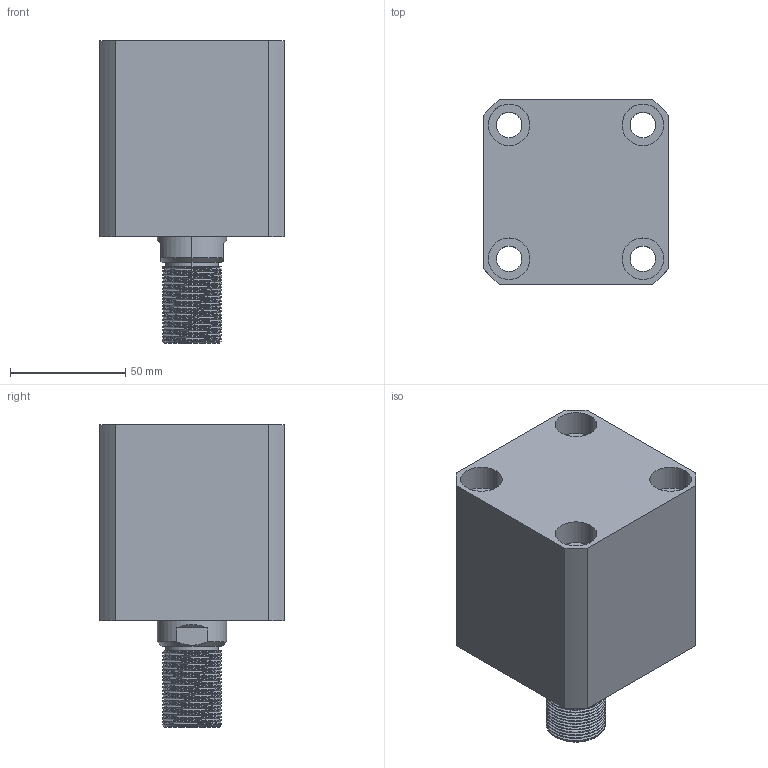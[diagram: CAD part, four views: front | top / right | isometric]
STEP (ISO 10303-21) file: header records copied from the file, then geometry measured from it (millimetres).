
FILE_DESCRIPTION (( 'STEP AP203' ), '1' );
FILE_NAME ('CHTB-SDMA50-25W.STEP', '2018-05-19T01:36:18', ( '' ), ( '' ), 'SwSTEP 2.0', 'SolidWorks 2015', '' );
FILE_SCHEMA (( 'CONFIG_CONTROL_DESIGN' ));
Length unit declared in the file: millimetre
Products named in the file (5): 活塞杆SDMA50-25W; CHTM-SDMA50QG; 掛极SDMA50-25W; M6; CHTB-SDMA50-25W
Assembly tree (5 placements, depth 2):
  CHTB-SDMA50-25W
    掛极SDMA50-25W
    活塞杆SDMA50-25W
    M6  x2
    CHTM-SDMA50QG
Bounding box: 80 x 80 x 131 mm (x, y, z)
Volume: 478002.9 mm3; surface area: 100146.6 mm2
Topology: 5 solids, 5 shells, 312 faces, 831 edges, 553 vertices
Faces by surface type: cylinder 179, plane 60, cone 29, bspline 28, torus 16
Entity records: 17949 total; most frequent: CARTESIAN_POINT 11067, ORIENTED_EDGE 1468, DIRECTION 1169, EDGE_CURVE 734, VERTEX_POINT 492, AXIS2_PLACEMENT_3D 472, EDGE_LOOP 320, FACE_OUTER_BOUND 277
